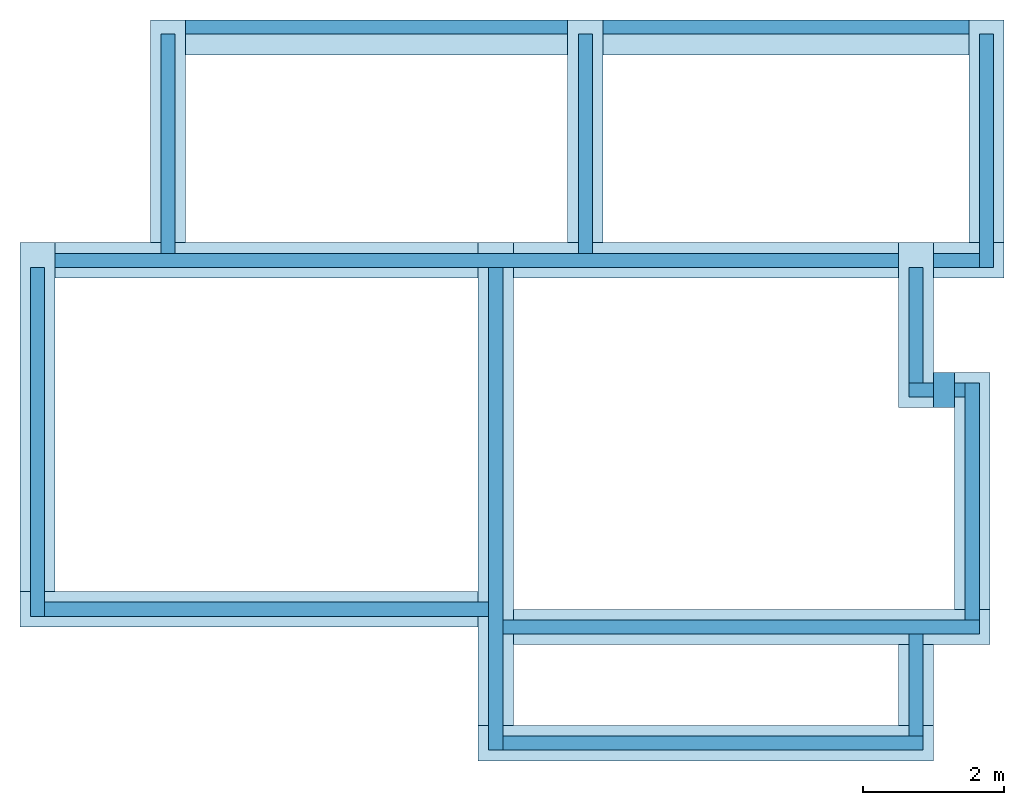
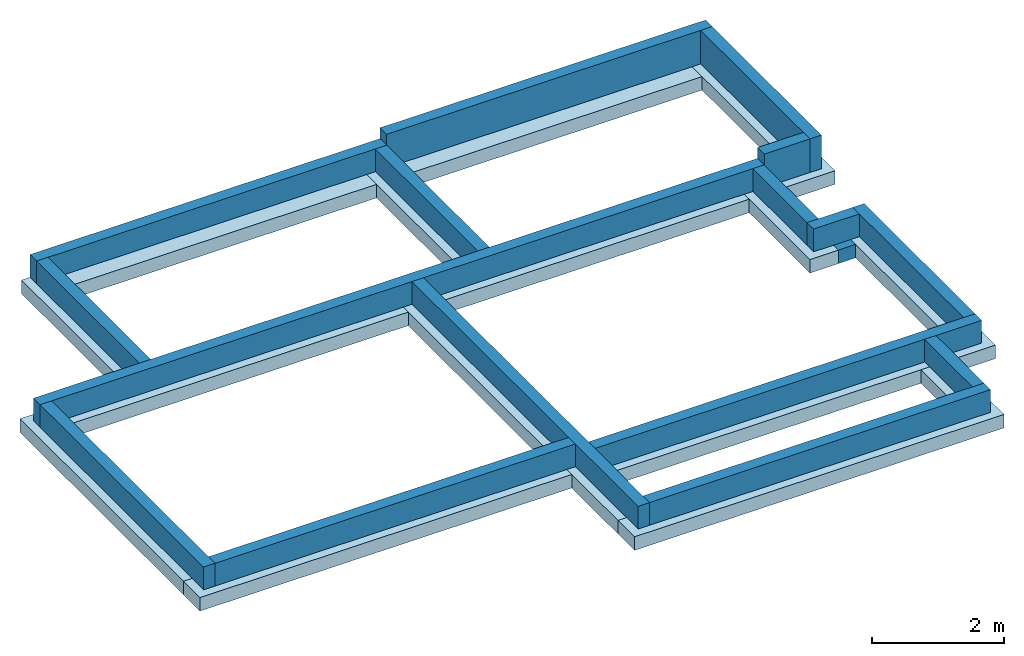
# One storey: 14 footings, 14 walls.
"""IFC2X3 building model written with IfcOpenShell, lengths in centimetres."""

from ifc_helpers import new_model, entity, si_unit, converted_unit, derived_unit, direction, frame, frame_2d, origin, origin_2d_with_axis, place, context, subcontext, project, spatial, polyline, rectangle, extrude, clip, bounded_halfspace, material, layer, layer_set, layer_usage, type_object, element, save


model = new_model("IFC2X3")

# Units and contexts
model_context = context("Model", 3, precision=0.001, world=origin(), true_north=direction((6.123031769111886e-17, 1.0)))
body_context = subcontext(model_context, "Body", "Model", "MODEL_VIEW")
ifc_project = project(units=[si_unit("LENGTHUNIT", "METRE", prefix="CENTI"), si_unit("AREAUNIT", "SQUARE_METRE"), si_unit("VOLUMEUNIT", "CUBIC_METRE"), converted_unit("PLANEANGLEUNIT", "DEGREE", entity("IfcRatioMeasure", 0.017453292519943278), si_unit("PLANEANGLEUNIT", "RADIAN"), dimensions=[0, 0, 0, 0, 0, 0, 0]), si_unit("MASSUNIT", "GRAM", prefix="KILO"), derived_unit("MASSDENSITYUNIT", [(si_unit("MASSUNIT", "GRAM", prefix="KILO"), 1), (si_unit("LENGTHUNIT", "METRE"), -3)]), derived_unit("MOMENTOFINERTIAUNIT", [(si_unit("LENGTHUNIT", "METRE"), 4)]), si_unit("TIMEUNIT", "SECOND"), si_unit("FREQUENCYUNIT", "HERTZ"), si_unit("THERMODYNAMICTEMPERATUREUNIT", "DEGREE_CELSIUS"), derived_unit("THERMALTRANSMITTANCEUNIT", [(si_unit("MASSUNIT", "GRAM", prefix="KILO"), 1), (si_unit("THERMODYNAMICTEMPERATUREUNIT", "KELVIN"), -1), (si_unit("TIMEUNIT", "SECOND"), -3)]), derived_unit("VOLUMETRICFLOWRATEUNIT", [(si_unit("LENGTHUNIT", "METRE"), 3), (si_unit("TIMEUNIT", "SECOND"), -1)]), derived_unit("MASSFLOWRATEUNIT", [(si_unit("MASSUNIT", "GRAM", prefix="KILO"), 1), (si_unit("TIMEUNIT", "SECOND"), -1)]), derived_unit("ROTATIONALFREQUENCYUNIT", [(si_unit("TIMEUNIT", "SECOND"), -1)]), si_unit("ELECTRICCURRENTUNIT", "AMPERE"), si_unit("ELECTRICVOLTAGEUNIT", "VOLT"), si_unit("POWERUNIT", "WATT"), si_unit("FORCEUNIT", "NEWTON", prefix="KILO"), si_unit("ILLUMINANCEUNIT", "LUX"), si_unit("LUMINOUSFLUXUNIT", "LUMEN"), si_unit("LUMINOUSINTENSITYUNIT", "CANDELA"), derived_unit("USERDEFINED", [(si_unit("MASSUNIT", "GRAM", prefix="KILO"), -1), (si_unit("LENGTHUNIT", "METRE"), -2), (si_unit("TIMEUNIT", "SECOND"), 3), (si_unit("LUMINOUSFLUXUNIT", "LUMEN"), 1)]), derived_unit("SOUNDPOWERUNIT", [(si_unit("MASSUNIT", "GRAM", prefix="KILO"), 1), (si_unit("LENGTHUNIT", "METRE"), 2), (si_unit("TIMEUNIT", "SECOND"), -3)]), derived_unit("SOUNDPRESSUREUNIT", [(si_unit("MASSUNIT", "GRAM", prefix="KILO"), 1), (si_unit("LENGTHUNIT", "METRE"), -1), (si_unit("TIMEUNIT", "SECOND"), -2)]), derived_unit("LINEARVELOCITYUNIT", [(si_unit("LENGTHUNIT", "METRE"), 1), (si_unit("TIMEUNIT", "SECOND"), -1)]), si_unit("PRESSUREUNIT", "PASCAL"), derived_unit("USERDEFINED", [(si_unit("LENGTHUNIT", "METRE"), -2), (si_unit("MASSUNIT", "GRAM", prefix="KILO"), 1), (si_unit("TIMEUNIT", "SECOND"), -2)]), derived_unit("LINEARFORCEUNIT", [(si_unit("MASSUNIT", "GRAM", prefix="KILO"), 1), (si_unit("LENGTHUNIT", "METRE"), 1), (si_unit("TIMEUNIT", "SECOND"), -2), (si_unit("LENGTHUNIT", "METRE"), -1)]), derived_unit("PLANARFORCEUNIT", [(si_unit("MASSUNIT", "GRAM", prefix="KILO"), 1), (si_unit("LENGTHUNIT", "METRE"), 1), (si_unit("TIMEUNIT", "SECOND"), -2), (si_unit("LENGTHUNIT", "METRE"), -2)])], contexts=[model_context])

# Site, building, storey
site_placement = place(None, origin())
site = spatial("IfcSite", under=ifc_project, at=site_placement, Name="Default", CompositionType="ELEMENT")
building_placement = place(site_placement, origin())
building = spatial("IfcBuilding", under=site, at=building_placement, CompositionType="ELEMENT")
storey_placement = place(building_placement, frame((0.0, 0.0, -70.0)))
storey = spatial("IfcBuildingStorey", under=building, at=storey_placement, Name="0_Fondation", CompositionType="ELEMENT", Elevation=-70.00000000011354)

# Footings
ifc_material_1 = material(Name="Béton - Béton coulé sur place")
footing_1_placement = place(storey_placement, origin())
element("IfcFooting", 1, at=footing_1_placement, inside=storey, material=ifc_material_1, Name="Semelle filante:Semelle 50/25", ObjectType="Semelle filante:Semelle 50/25", PredefinedType="STRIP_FOOTING", context=body_context, shape_type="SweptSolid", body=[
    extrude(rectangle(XDim=646.0000000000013, YDim=50.0, at=frame_2d((2.842170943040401e-14, -8.33333333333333), x_axis=(1.0, 0.0))), frame((-673.8253630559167, -86.06237058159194, -25.0)), (0.0, 0.0, 1.0), 25.0),
])
footing_2_placement = place(storey_placement, origin())
element("IfcFooting", 2, at=footing_2_placement, inside=storey, material=ifc_material_1, Name="Semelle filante:Semelle 50/25", ObjectType="Semelle filante:Semelle 50/25", PredefinedType="STRIP_FOOTING", context=body_context, shape_type="SweptSolid", body=[
    extrude(rectangle(XDim=685.0, YDim=50.0, at=frame_2d((-17.49999999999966, 2.7000623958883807e-13), x_axis=(1.0, 0.0))), frame((-971.8253630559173, 255.60429608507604, -25.0), z_axis=(0.0, 0.0, 1.0), x_axis=(0.0, -1.0, 0.0)), (0.0, 0.0, 1.0), 25.0),
])
footing_3_placement = place(storey_placement, origin())
element("IfcFooting", 3, at=footing_3_placement, inside=storey, material=ifc_material_1, Name="Semelle filante:Semelle 50/25", ObjectType="Semelle filante:Semelle 50/25", PredefinedType="STRIP_FOOTING", context=body_context, shape_type="SweptSolid", body=[
    extrude(rectangle(XDim=649.9999999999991, YDim=50.0, at=frame_2d((55.00000000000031, -5.000000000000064), x_axis=(1.0, 0.0))), frame((-1376.825363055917, 100.60429608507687, -25.0)), (0.0, 0.0, 1.0), 25.0),
])
footing_4_placement = place(storey_placement, origin())
element("IfcFooting", 4, at=footing_4_placement, inside=storey, material=ifc_material_1, Name="Semelle filante:Semelle 50/25", ObjectType="Semelle filante:Semelle 50/25", PredefinedType="STRIP_FOOTING", context=body_context, shape_type="SweptSolid", body=[
    extrude(rectangle(XDim=495.0000000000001, YDim=49.99999999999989, at=frame_2d((39.50000000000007, -4.99999999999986), x_axis=(1.0, 0.0))), frame((-1616.825363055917, 407.60429608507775, -25.0), z_axis=(0.0, 0.0, 1.0), x_axis=(0.0, -1.0, 0.0)), (0.0, 0.0, 1.0), 25.0),
])
footing_5_placement = place(storey_placement, origin())
element("IfcFooting", 5, at=footing_5_placement, inside=storey, material=ifc_material_1, Name="Semelle filante:Semelle 50/25", ObjectType="Semelle filante:Semelle 50/25", PredefinedType="STRIP_FOOTING", context=body_context, shape_type="SweptSolid", body=[
    extrude(rectangle(XDim=115.00000000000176, YDim=50.0, at=frame_2d((-7.105427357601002e-15, -2.6645352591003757e-14), x_axis=(1.0, 0.0))), frame((-375.82536305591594, -11.895703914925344, -25.0), z_axis=(0.0, 0.0, 1.0), x_axis=(0.0, -1.0, 0.0)), (0.0, 0.0, 1.0), 25.0),
])
footing_6_placement = place(storey_placement, origin())
element("IfcFooting", 6, at=footing_6_placement, inside=storey, material=ifc_material_1, Name="Semelle filante:Semelle 50/25", ObjectType="Semelle filante:Semelle 50/25", PredefinedType="STRIP_FOOTING", context=body_context, shape_type="SweptSolid", body=[
    extrude(rectangle(XDim=676.0000000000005, YDim=49.99999999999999, at=frame_2d((107.71428571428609, -3.5714285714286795), x_axis=(1.0, 0.0))), frame((-501.1110773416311, 67.03286751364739, -25.0), z_axis=(0.0, 0.0, 1.0), x_axis=(-1.0, 0.0, 0.0)), (0.0, 0.0, 1.0), 25.0),
])
footing_7_placement = place(storey_placement, origin())
element("IfcFooting", 7, at=footing_7_placement, inside=storey, material=ifc_material_1, Name="Semelle filante:Semelle 50/25", ObjectType="Semelle filante:Semelle 50/25", PredefinedType="STRIP_FOOTING", context=body_context, shape_type="SweptSolid", body=[
    extrude(rectangle(XDim=336.0000000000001, YDim=50.0, at=frame_2d((23.599999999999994, 5.000000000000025), x_axis=(1.0, 0.0))), frame((-300.8253630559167, 287.2042960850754, -25.0), z_axis=(0.0, 0.0, 1.0), x_axis=(0.0, -1.0, 0.0)), (0.0, 0.0, 1.0), 25.0),
])
footing_8_placement = place(storey_placement, origin())
element("IfcFooting", 8, at=footing_8_placement, inside=storey, material=ifc_material_1, Name="Semelle filante:Semelle 50/25", ObjectType="Semelle filante:Semelle 50/25", PredefinedType="STRIP_FOOTING", context=body_context, shape_type="SweptSolid", body=[
    extrude(rectangle(XDim=30.000000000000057, YDim=50.0, at=origin_2d_with_axis()), frame((-335.8253630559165, 406.60429608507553, -25.0)), (0.0, 0.0, 1.0), 25.0),
])
footing_9_placement = place(storey_placement, origin())
element("IfcFooting", 9, at=footing_9_placement, inside=storey, material=ifc_material_1, Name="Semelle filante:Semelle 50/25", ObjectType="Semelle filante:Semelle 50/25", PredefinedType="STRIP_FOOTING", context=body_context, shape_type="SweptSolid", body=[
    extrude(rectangle(XDim=233.999999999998, YDim=50.0, at=frame_2d((-9.57142857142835, 3.571428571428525), x_axis=(1.0, 0.0))), frame((-372.25393448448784, 508.175724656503, -25.0), z_axis=(0.0, 0.0, 1.0), x_axis=(0.0, 1.0, 0.0)), (0.0, 0.0, 1.0), 25.0),
])
footing_10_placement = place(storey_placement, origin())
element("IfcFooting", 10, at=footing_10_placement, inside=storey, material=ifc_material_1, Name="Semelle filante:Semelle 50/25", ObjectType="Semelle filante:Semelle 50/25", PredefinedType="STRIP_FOOTING", context=body_context, shape_type="SweptSolid", body=[
    extrude(rectangle(XDim=50.0, YDim=100.00000000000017, at=frame_2d((-5.000000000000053, -2.4868995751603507e-14), x_axis=(1.0, 0.0))), frame((-300.8253630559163, 595.6042960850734, -25.0), z_axis=(0.0, 0.0, 1.0), x_axis=(0.0, 1.0, 0.0)), (0.0, 0.0, 1.0), 25.0),
    extrude(rectangle(XDim=546.0000000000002, YDim=50.0, at=frame_2d((-57.000000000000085, 8.333333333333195), x_axis=(1.0, 0.0))), frame((-730.8253630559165, 598.937629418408, -25.0), z_axis=(0.0, 0.0, 1.0), x_axis=(-1.0, 0.0, 0.0)), (0.0, 0.0, 1.0), 25.0),
    extrude(rectangle(XDim=600.0, YDim=50.0, at=frame_2d((-46.66666666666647, 8.333333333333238), x_axis=(1.0, 0.0))), frame((-1343.4920297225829, 598.9376294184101, -25.0), z_axis=(0.0, 0.0, 1.0), x_axis=(-1.0, 0.0, 0.0)), (0.0, 0.0, 1.0), 25.0),
])
footing_11_placement = place(storey_placement, origin())
element("IfcFooting", 11, at=footing_11_placement, inside=storey, material=ifc_material_1, Name="Semelle filante:Semelle 50/25", ObjectType="Semelle filante:Semelle 50/25", PredefinedType="STRIP_FOOTING", context=body_context, shape_type="SweptSolid", body=[
    extrude(rectangle(XDim=316.00000000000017, YDim=49.99999999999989, at=frame_2d((21.600000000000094, -5.00000000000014), x_axis=(1.0, 0.0))), frame((-1431.8253630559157, 795.2042960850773, -25.0), z_axis=(0.0, 0.0, 1.0), x_axis=(0.0, -1.0, 0.0)), (0.0, 0.0, 1.0), 25.0),
])
footing_12_placement = place(storey_placement, origin())
element("IfcFooting", 12, at=footing_12_placement, inside=storey, material=ifc_material_1, Name="Semelle filante:Semelle 50/25", ObjectType="Semelle filante:Semelle 50/25", PredefinedType="STRIP_FOOTING", context=body_context, shape_type="SweptSolid", body=[
    extrude(rectangle(XDim=316.00000000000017, YDim=50.0, at=frame_2d((-36.000000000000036, 3.019806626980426e-14), x_axis=(1.0, 0.0))), frame((-844.825363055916, 809.6042960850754, -25.0), z_axis=(0.0, 0.0, 1.0), x_axis=(0.0, 1.0, 0.0)), (0.0, 0.0, 1.0), 25.0),
])
footing_13_placement = place(storey_placement, origin())
element("IfcFooting", 13, at=footing_13_placement, inside=storey, material=ifc_material_1, Name="Semelle filante:Semelle 50/25", ObjectType="Semelle filante:Semelle 50/25", PredefinedType="STRIP_FOOTING", context=body_context, shape_type="SweptSolid", body=[
    extrude(rectangle(XDim=316.00000000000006, YDim=50.0, at=frame_2d((21.60000000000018, 4.999999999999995), x_axis=(1.0, 0.0))), frame((-280.82536305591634, 795.2042960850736, -25.0), z_axis=(0.0, 0.0, 1.0), x_axis=(0.0, -1.0, 0.0)), (0.0, 0.0, 1.0), 25.0),
])
footing_14_placement = place(storey_placement, origin())
element("IfcFooting", 14, at=footing_14_placement, inside=storey, material=ifc_material_1, Name="Semelle filante:Semelle mitoyen", ObjectType="Semelle filante:Semelle mitoyen", PredefinedType="STRIP_FOOTING", context=body_context, shape_type="SweptSolid", body=[
    extrude(rectangle(XDim=518.9999999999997, YDim=50.0, at=frame_2d((5.684341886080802e-14, 5.5067062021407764e-14), x_axis=(1.0, 0.0))), frame((-560.325363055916, 906.6042960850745, -25.0), z_axis=(0.0, 0.0, 1.0), x_axis=(-1.0, 0.0, 0.0)), (0.0, 0.0, 1.0), 25.0),
    extrude(rectangle(XDim=541.9999999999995, YDim=50.000000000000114, at=frame_2d((0.0, 5.5067062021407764e-14), x_axis=(1.0, 0.0))), frame((-1140.8253630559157, 906.6042960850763, -25.0)), (0.0, 0.0, 1.0), 25.0),
])

# Walls
ifc_material_2 = material(Name="Maçonnerie - Béton")
ifc_layer = layer(ifc_material_2, 20.0)
ifc_layer_set = layer_set([ifc_layer], Name="Mur de base:Mur 20")
ifc_layer_usage_1 = layer_usage(ifc_layer_set, "AXIS2", "POSITIVE", -10.0)
wall_type = type_object("IfcWallType", Name="Mur de base:Mur 20", PredefinedType="STANDARD", material=ifc_layer_set)
wall_1_placement = place(storey_placement, frame((-265.82536305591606, 921.6042960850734, 0.0), z_axis=(0.0, 0.0, 1.0), x_axis=(-1.0, 0.0, 0.0)))
element("IfcWallStandardCase", 15, at=wall_1_placement, inside=storey, type_object=wall_type, material=ifc_layer_usage_1, Name="Mur de base:Mur 20", ObjectType="Mur de base:Mur 20", context=body_context, shape_type="Clipping", body=[
    clip(clip(clip(extrude(rectangle(XDim=1181.0, YDim=20.0, at=frame_2d((590.5, -4.3520742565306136e-14), x_axis=(-1.0, 0.0))), origin(), (0.0, 0.0, 1.0), 62.000000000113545), bounded_halfspace(frame((569.0, -10.0, 42.0), z_axis=(0.0, 0.0, -1.0), x_axis=(0.0, 1.0, 0.0)), True, frame((569.0, -10.0, 42.0)), polyline([(0.0, 0.0), (18653.76, 0.0), (18653.76, 609.5999999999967), (18044.15999999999, 609.6), (609.600000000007, 609.5999999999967), (0.0, 609.6), (0.0, 0.0)]))), bounded_halfspace(frame((0.0, -10.0, 62.0), z_axis=(0.0, 0.0, -1.0), x_axis=(0.0, 1.0, 0.0)), True, frame((0.0, -10.0, 62.0)), polyline([(0.0, 0.0), (17343.119999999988, 0.0), (17343.119999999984, 609.6), (609.5999999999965, 609.6), (0.0, 609.6), (0.0, 0.0)]))), bounded_halfspace(frame((569.0, -10.0, 42.0), z_axis=(0.0, 0.0, -1.0), x_axis=(0.0, 1.0, 0.0)), True, frame((569.0, -10.0, 42.0)), polyline([(0.0, 0.0), (18653.76, 0.0), (18653.76, 609.5999999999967), (18044.15999999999, 609.6), (609.600000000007, 609.5999999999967), (0.0, 609.6), (0.0, 0.0)]))),
])
ifc_layer_usage_2 = layer_usage(ifc_layer_set, "AXIS2", "POSITIVE", -10.0)
wall_2_placement = place(storey_placement, frame((-1436.8253630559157, 911.6042960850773, 0.0), z_axis=(0.0, 0.0, 1.0), x_axis=(0.0, -1.0, 0.0)))
element("IfcWallStandardCase", 16, at=wall_2_placement, inside=storey, type_object=wall_type, material=ifc_layer_usage_2, Name="Mur de base:Mur 20", ObjectType="Mur de base:Mur 20", context=body_context, shape_type="Clipping", body=[
    clip(extrude(rectangle(XDim=311.0000000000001, YDim=19.999999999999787, at=frame_2d((155.50000000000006, -1.2434497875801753e-14), x_axis=(-1.0, 0.0))), origin(), (0.0, 0.0, 1.0), 42.000000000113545), bounded_halfspace(frame((0.0, -10.0, 42.0), z_axis=(0.0, 0.0, -1.0), x_axis=(1.0, 0.0, 0.0)), True, frame((0.0, -10.0, 42.0)), polyline([(0.0, 0.0), (9479.280000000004, 0.0), (9479.280000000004, 609.5999999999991), (0.0, 609.6), (0.0, 0.0)]))),
])
ifc_layer_usage_3 = layer_usage(ifc_layer_set, "AXIS2", "POSITIVE", -10.0)
wall_3_placement = place(storey_placement, frame((-1621.8253630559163, 580.6042960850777, 0.0), z_axis=(0.0, 0.0, 1.0), x_axis=(0.0, -1.0, 0.0)))
element("IfcWallStandardCase", 17, at=wall_3_placement, inside=storey, type_object=wall_type, material=ifc_layer_usage_3, Name="Mur de base:Mur 20", ObjectType="Mur de base:Mur 20", context=body_context, shape_type="Clipping", body=[
    clip(extrude(rectangle(XDim=495.00000000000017, YDim=19.999999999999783, at=frame_2d((247.50000000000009, 1.865174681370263e-14), x_axis=(-1.0, 0.0))), origin(), (0.0, 0.0, 1.0), 42.000000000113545), bounded_halfspace(frame((0.0, -10.0, 42.0), z_axis=(0.0, 0.0, -1.0), x_axis=(1.0, 0.0, 0.0)), True, frame((0.0, -10.0, 42.0)), polyline([(0.0, 0.0), (15087.600000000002, 0.0), (15087.600000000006, 609.600000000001), (14478.0, 609.6), (0.0, 609.6), (0.0, 0.0)]))),
])
ifc_layer_usage_4 = layer_usage(ifc_layer_set, "AXIS2", "POSITIVE", -10.0)
wall_4_placement = place(storey_placement, frame((-1611.8253630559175, 95.6042960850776, 0.0)))
element("IfcWallStandardCase", 18, at=wall_4_placement, inside=storey, type_object=wall_type, material=ifc_layer_usage_4, Name="Mur de base:Mur 20", ObjectType="Mur de base:Mur 20", context=body_context, shape_type="Clipping", body=[
    clip(extrude(rectangle(XDim=630.0000000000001, YDim=20.0, at=frame_2d((315.00000000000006, 1.7763568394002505e-15), x_axis=(-1.0, 0.0))), origin(), (0.0, 0.0, 1.0), 42.000000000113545), bounded_halfspace(frame((0.0, -10.0, 42.0), z_axis=(0.0, 0.0, -1.0), x_axis=(0.0, -1.0, 0.0)), True, frame((0.0, -10.0, 42.0)), polyline([(0.0, 0.0), (19202.400000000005, 0.0), (19202.400000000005, 609.6), (0.0, 609.6), (0.0, 0.0)]))),
])
ifc_layer_usage_5 = layer_usage(ifc_layer_set, "AXIS2", "POSITIVE", -10.0)
wall_5_placement = place(storey_placement, frame((-971.8253630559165, 580.6042960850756, 0.0), z_axis=(0.0, 0.0, 1.0), x_axis=(0.0, -1.0, 0.0)))
element("IfcWallStandardCase", 19, at=wall_5_placement, inside=storey, type_object=wall_type, material=ifc_layer_usage_5, Name="Mur de base:Mur 20", ObjectType="Mur de base:Mur 20", context=body_context, shape_type="Clipping", body=[
    clip(extrude(rectangle(XDim=685.0, YDim=20.0, at=frame_2d((342.5, 4.440892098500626e-14), x_axis=(-1.0, 0.0))), origin(), (0.0, 0.0, 1.0), 42.000000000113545), bounded_halfspace(frame((0.0, -10.0, 42.0), z_axis=(0.0, 0.0, -1.0), x_axis=(1.0, 0.0, 0.0)), True, frame((0.0, -10.0, 42.0)), polyline([(0.0, 0.0), (14478.0, 0.0), (15087.600000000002, 0.0), (20878.799999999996, 0.0), (20878.799999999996, 609.5999999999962), (20269.199999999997, 609.599999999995), (15849.599999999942, 609.5999999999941), (15240.0, 609.5999999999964), (0.0, 609.5999999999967), (0.0, 0.0)]))),
])
ifc_layer_usage_6 = layer_usage(ifc_layer_set, "AXIS2", "POSITIVE", -10.0)
wall_6_placement = place(storey_placement, frame((-961.8253630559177, -94.39570391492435, 0.0)))
element("IfcWallStandardCase", 20, at=wall_6_placement, inside=storey, type_object=wall_type, material=ifc_layer_usage_6, Name="Mur de base:Mur 20", ObjectType="Mur de base:Mur 20", context=body_context, shape_type="Clipping", body=[
    clip(extrude(rectangle(XDim=596.0000000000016, YDim=20.0, at=frame_2d((298.0000000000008, -1.7763568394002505e-15), x_axis=(-1.0, 0.0))), origin(), (0.0, 0.0, 1.0), 42.000000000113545), bounded_halfspace(frame((0.0, -10.0, 42.0), z_axis=(0.0, 0.0, -1.0), x_axis=(0.0, -1.0, 0.0)), True, frame((0.0, -10.0, 42.0)), polyline([(0.0, 0.0), (18166.080000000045, 0.0), (18166.08000000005, 609.6), (17556.480000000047, 609.6), (0.0, 609.6), (0.0, 0.0)]))),
])
ifc_layer_usage_7 = layer_usage(ifc_layer_set, "AXIS2", "POSITIVE", -10.0)
wall_7_placement = place(storey_placement, frame((-375.8253630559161, -84.39570391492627, 0.0), z_axis=(0.0, 0.0, 1.0), x_axis=(0.0, 1.0, 0.0)))
element("IfcWallStandardCase", 21, at=wall_7_placement, inside=storey, type_object=wall_type, material=ifc_layer_usage_7, Name="Mur de base:Mur 20", ObjectType="Mur de base:Mur 20", context=body_context, shape_type="Clipping", body=[
    clip(extrude(rectangle(XDim=145.00000000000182, YDim=20.0, at=frame_2d((72.50000000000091, 1.1546319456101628e-14), x_axis=(-1.0, 0.0))), origin(), (0.0, 0.0, 1.0), 42.000000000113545), bounded_halfspace(frame((0.0, -10.0, 42.0), z_axis=(0.0, 0.0, -1.0), x_axis=(-1.0, 0.0, 0.0)), True, frame((0.0, -10.0, 42.0)), polyline([(0.0, 0.0), (4419.600000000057, 0.0), (4419.600000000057, 609.6000000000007), (0.0, 609.6), (0.0, 0.0)]))),
])
ifc_layer_usage_8 = layer_usage(ifc_layer_set, "AXIS2", "POSITIVE", -10.0)
wall_8_placement = place(storey_placement, frame((-961.8253630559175, 70.60429608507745, 0.0)))
element("IfcWallStandardCase", 22, at=wall_8_placement, inside=storey, type_object=wall_type, material=ifc_layer_usage_8, Name="Mur de base:Mur 20", ObjectType="Mur de base:Mur 20", context=body_context, shape_type="Clipping", body=[
    clip(extrude(rectangle(XDim=676.0000000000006, YDim=20.0, at=frame_2d((338.0000000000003, -3.552713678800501e-15), x_axis=(-1.0, 0.0))), origin(), (0.0, 0.0, 1.0), 42.000000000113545), bounded_halfspace(frame((0.0, -10.0, 42.0), z_axis=(0.0, 0.0, -1.0), x_axis=(0.0, -1.0, 0.0)), True, frame((0.0, -10.0, 42.0)), polyline([(0.0, 0.0), (17556.48000000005, 0.0), (18166.080000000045, 0.0), (20604.480000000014, 0.0), (20604.480000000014, 609.5999999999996), (19994.880000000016, 609.5999999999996), (0.0, 609.6), (0.0, 0.0)]))),
])
ifc_layer_usage_9 = layer_usage(ifc_layer_set, "AXIS2", "POSITIVE", -10.0)
wall_9_placement = place(storey_placement, frame((-295.82536305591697, 80.60429608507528, 0.0), z_axis=(0.0, 0.0, 1.0), x_axis=(0.0, 1.0, 0.0)))
element("IfcWallStandardCase", 23, at=wall_9_placement, inside=storey, type_object=wall_type, material=ifc_layer_usage_9, Name="Mur de base:Mur 20", ObjectType="Mur de base:Mur 20", context=body_context, shape_type="Clipping", body=[
    clip(extrude(rectangle(XDim=336.00000000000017, YDim=20.0, at=frame_2d((168.00000000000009, -1.1546319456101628e-14), x_axis=(-1.0, 0.0))), origin(), (0.0, 0.0, 1.0), 42.000000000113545), bounded_halfspace(frame((0.0, -10.0, 42.0), z_axis=(0.0, 0.0, -1.0), x_axis=(-1.0, 0.0, 0.0)), True, frame((0.0, -10.0, 42.0)), polyline([(0.0, 0.0), (10241.280000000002, 0.0), (10241.280000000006, 609.5999999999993), (9631.680000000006, 609.6), (0.0, 609.6), (0.0, 0.0)]))),
])
ifc_layer_usage_10 = layer_usage(ifc_layer_set, "AXIS2", "POSITIVE", -10.0)
wall_10_placement = place(storey_placement, frame((-305.82536305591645, 406.6042960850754, 0.0), z_axis=(0.0, 0.0, 1.0), x_axis=(-1.0, 0.0, 0.0)))
element("IfcWallStandardCase", 24, at=wall_10_placement, inside=storey, type_object=wall_type, material=ifc_layer_usage_10, Name="Mur de base:Mur 20", ObjectType="Mur de base:Mur 20", context=body_context, shape_type="Clipping", body=[
    clip(extrude(rectangle(XDim=80.00000000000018, YDim=20.0, at=frame_2d((40.00000000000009, 0.0), x_axis=(-1.0, 0.0))), origin(), (0.0, 0.0, 1.0), 42.000000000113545), bounded_halfspace(frame((0.0, -10.0, 42.0), z_axis=(0.0, 0.0, -1.0), x_axis=(0.0, 1.0, 0.0)), True, frame((0.0, -10.0, 42.0)), polyline([(0.0, 0.0), (1828.8000000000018, 0.0), (2438.400000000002, 0.0), (2438.4000000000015, 609.6), (0.0, 609.6), (0.0, 0.0)]))),
])
ifc_layer_usage_11 = layer_usage(ifc_layer_set, "AXIS2", "POSITIVE", -10.0)
wall_11_placement = place(storey_placement, frame((-375.8253630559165, 416.60429608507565, 0.0), z_axis=(0.0, 0.0, 1.0), x_axis=(0.0, 1.0, 0.0)))
element("IfcWallStandardCase", 25, at=wall_11_placement, inside=storey, type_object=wall_type, material=ifc_layer_usage_11, Name="Mur de base:Mur 20", ObjectType="Mur de base:Mur 20", context=body_context, shape_type="Clipping", body=[
    clip(extrude(rectangle(XDim=163.999999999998, YDim=20.0, at=frame_2d((81.999999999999, 1.3322676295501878e-14), x_axis=(-1.0, 0.0))), origin(), (0.0, 0.0, 1.0), 42.000000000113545), bounded_halfspace(frame((0.0, -10.0, 42.0), z_axis=(0.0, 0.0, -1.0), x_axis=(-1.0, 0.0, 0.0)), True, frame((0.0, -10.0, 42.0)), polyline([(0.0, 0.0), (4998.719999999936, 0.0), (4998.719999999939, 609.6000000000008), (0.0, 609.6000000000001), (0.0, 0.0)]))),
])
ifc_layer_usage_12 = layer_usage(ifc_layer_set, "AXIS2", "POSITIVE", -10.0)
wall_12_placement = place(storey_placement, frame((-285.82536305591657, 590.6042960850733, 0.0), z_axis=(0.0, 0.0, 1.0), x_axis=(-1.0, 0.0, 0.0)))
element("IfcWallStandardCase", 26, at=wall_12_placement, inside=storey, type_object=wall_type, material=ifc_layer_usage_12, Name="Mur de base:Mur 20", ObjectType="Mur de base:Mur 20", context=body_context, shape_type="Clipping", body=[
    clip(clip(clip(extrude(rectangle(XDim=1346.0000000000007, YDim=20.0, at=frame_2d((673.0000000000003, 0.0), x_axis=(-1.0, 0.0))), origin(), (0.0, 0.0, 1.0), 62.00000000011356), bounded_halfspace(frame((80.0, -10.0, 42.0), z_axis=(0.0, 0.0, -1.0), x_axis=(0.0, 1.0, 0.0)), True, frame((80.0, -10.0, 42.0)), polyline([(0.0, 0.0), (14295.119999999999, 0.0), (14904.720000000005, 0.0), (32339.279999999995, 0.0), (32948.88, 0.0), (38587.680000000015, 0.0), (38587.68000000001, 609.6), (37978.08000000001, 609.6), (18775.680000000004, 609.6), (18166.080000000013, 609.5999999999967), (609.6, 609.6), (0.0, 609.6), (0.0, 0.0)]))), bounded_halfspace(frame((0.0, -10.0, 62.0), z_axis=(0.0, 0.0, -1.0), x_axis=(0.0, 1.0, 0.0)), True, frame((0.0, -10.0, 62.0)), polyline([(0.0, 0.0), (2438.39999999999, 0.0), (2438.3999999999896, 609.6), (0.0, 609.6), (0.0, 0.0)]))), bounded_halfspace(frame((80.0, -10.0, 42.0), z_axis=(0.0, 0.0, -1.0), x_axis=(0.0, 1.0, 0.0)), True, frame((80.0, -10.0, 42.0)), polyline([(0.0, 0.0), (14295.119999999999, 0.0), (14904.720000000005, 0.0), (32339.279999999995, 0.0), (32948.88, 0.0), (38587.680000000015, 0.0), (38587.68000000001, 609.6), (37978.08000000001, 609.6), (18775.680000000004, 609.6), (18166.080000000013, 609.5999999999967), (609.6, 609.6), (0.0, 609.6), (0.0, 0.0)]))),
])
ifc_layer_usage_13 = layer_usage(ifc_layer_set, "AXIS2", "NEGATIVE", 10.0)
wall_13_placement = place(storey_placement, frame((-275.8253630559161, 911.6042960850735, 0.0), z_axis=(0.0, 0.0, 1.0), x_axis=(0.0, -1.0, 0.0)))
element("IfcWallStandardCase", 27, at=wall_13_placement, inside=storey, type_object=wall_type, material=ifc_layer_usage_13, Name="Mur de base:Mur 20", ObjectType="Mur de base:Mur 20", context=body_context, shape_type="Clipping", body=[
    clip(extrude(rectangle(XDim=331.00000000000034, YDim=20.0, at=frame_2d((165.50000000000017, -1.0658141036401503e-14), x_axis=(-1.0, 0.0))), origin(), (0.0, 0.0, 1.0), 62.00000000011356), bounded_halfspace(frame((0.0, -10.0, 62.0), z_axis=(0.0, 0.0, -1.0), x_axis=(0.0, 1.0, 0.0)), True, frame((0.0, -10.0, 62.0)), polyline([(0.0, 0.0), (9479.280000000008, 0.0), (10088.880000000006, 0.0), (10088.88000000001, 609.5999999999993), (0.0, 609.6000000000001), (0.0, 0.0)]))),
])
ifc_layer_usage_14 = layer_usage(ifc_layer_set, "AXIS2", "NEGATIVE", 10.0)
wall_14_placement = place(storey_placement, frame((-844.8253630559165, 600.6042960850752, 0.0), z_axis=(0.0, 0.0, 1.0), x_axis=(0.0, 1.0, 0.0)))
element("IfcWallStandardCase", 28, at=wall_14_placement, inside=storey, type_object=wall_type, material=ifc_layer_usage_14, Name="Mur de base:Mur 20", ObjectType="Mur de base:Mur 20", context=body_context, shape_type="Clipping", body=[
    clip(extrude(rectangle(XDim=311.0000000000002, YDim=20.0, at=frame_2d((155.5000000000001, 0.0), x_axis=(-1.0, 0.0))), origin(), (0.0, 0.0, 1.0), 42.000000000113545), bounded_halfspace(frame((0.0, -10.0, 42.0), z_axis=(0.0, 0.0, -1.0), x_axis=(-1.0, 0.0, 0.0)), True, frame((0.0, -10.0, 42.0)), polyline([(0.0, 0.0), (9479.280000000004, 0.0), (9479.280000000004, 609.6000000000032), (0.0, 609.6), (0.0, 0.0)]))),
])

save(model, "model.ifc")
